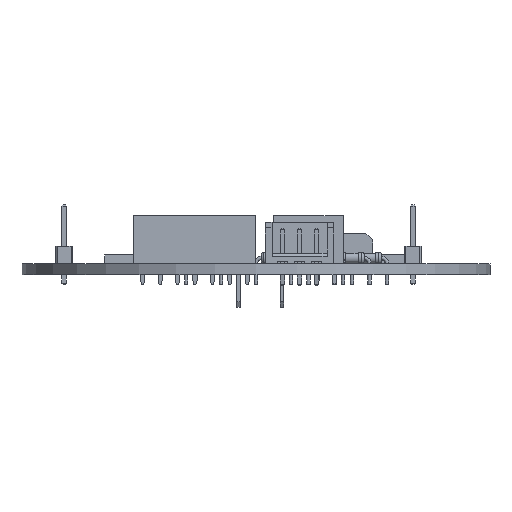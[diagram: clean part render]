
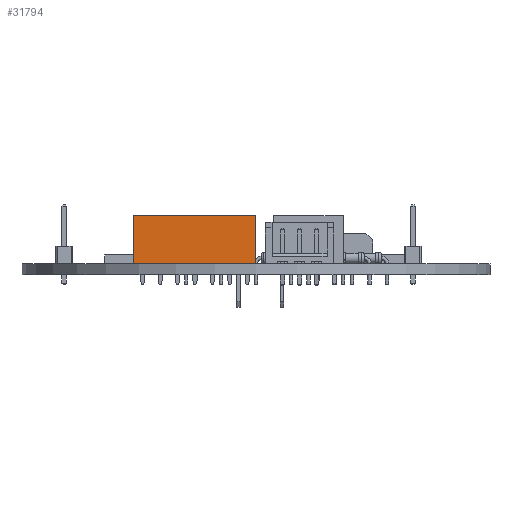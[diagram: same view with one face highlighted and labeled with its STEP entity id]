
A CAD part, left-side view. The second image highlights one B-rep face of the part: STEP entity #31794.
In plain terms, the highlighted planar face has unit normal (-1, 0, 0) as drawn and (1, 0, 0) by its records, which use the part's own axes.
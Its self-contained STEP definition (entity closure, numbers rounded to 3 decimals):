
#31794 = ADVANCED_FACE('',(#31795),#31809,.F.);
#31795 = FACE_BOUND('',#31796,.F.);
#31796 = EDGE_LOOP('',(#31797,#31832,#31860,#31888));
#31797 = ORIENTED_EDGE('',*,*,#31798,.T.);
#31798 = EDGE_CURVE('',#31799,#31801,#31803,.T.);
#31799 = VERTEX_POINT('',#31800);
#31800 = CARTESIAN_POINT('',(1.27,-16.51,0.));
#31801 = VERTEX_POINT('',#31802);
#31802 = CARTESIAN_POINT('',(1.27,-16.51,7.));
#31803 = SURFACE_CURVE('',#31804,(#31808,#31820),.PCURVE_S1.);
#31804 = LINE('',#31805,#31806);
#31805 = CARTESIAN_POINT('',(1.27,-16.51,0.));
#31806 = VECTOR('',#31807,1.);
#31807 = DIRECTION('',(0.,0.,1.));
#31808 = PCURVE('',#31809,#31814);
#31809 = PLANE('',#31810);
#31810 = AXIS2_PLACEMENT_3D('',#31811,#31812,#31813);
#31811 = CARTESIAN_POINT('',(1.27,-16.51,0.));
#31812 = DIRECTION('',(-1.,0.,0.));
#31813 = DIRECTION('',(0.,1.,0.));
#31814 = DEFINITIONAL_REPRESENTATION('',(#31815),#31819);
#31815 = LINE('',#31816,#31817);
#31816 = CARTESIAN_POINT('',(0.,0.));
#31817 = VECTOR('',#31818,1.);
#31818 = DIRECTION('',(0.,-1.));
#31819 = ( GEOMETRIC_REPRESENTATION_CONTEXT(2) 
PARAMETRIC_REPRESENTATION_CONTEXT() REPRESENTATION_CONTEXT('2D SPACE',''
  ) );
#31820 = PCURVE('',#31821,#31826);
#31821 = PLANE('',#31822);
#31822 = AXIS2_PLACEMENT_3D('',#31823,#31824,#31825);
#31823 = CARTESIAN_POINT('',(-3.81,-16.51,0.));
#31824 = DIRECTION('',(0.,1.,0.));
#31825 = DIRECTION('',(1.,0.,0.));
#31826 = DEFINITIONAL_REPRESENTATION('',(#31827),#31831);
#31827 = LINE('',#31828,#31829);
#31828 = CARTESIAN_POINT('',(5.08,0.));
#31829 = VECTOR('',#31830,1.);
#31830 = DIRECTION('',(0.,-1.));
#31831 = ( GEOMETRIC_REPRESENTATION_CONTEXT(2) 
PARAMETRIC_REPRESENTATION_CONTEXT() REPRESENTATION_CONTEXT('2D SPACE',''
  ) );
#31832 = ORIENTED_EDGE('',*,*,#31833,.T.);
#31833 = EDGE_CURVE('',#31801,#31834,#31836,.T.);
#31834 = VERTEX_POINT('',#31835);
#31835 = CARTESIAN_POINT('',(1.27,1.27,7.));
#31836 = SURFACE_CURVE('',#31837,(#31841,#31848),.PCURVE_S1.);
#31837 = LINE('',#31838,#31839);
#31838 = CARTESIAN_POINT('',(1.27,-16.51,7.));
#31839 = VECTOR('',#31840,1.);
#31840 = DIRECTION('',(0.,1.,0.));
#31841 = PCURVE('',#31809,#31842);
#31842 = DEFINITIONAL_REPRESENTATION('',(#31843),#31847);
#31843 = LINE('',#31844,#31845);
#31844 = CARTESIAN_POINT('',(0.,-7.));
#31845 = VECTOR('',#31846,1.);
#31846 = DIRECTION('',(1.,0.));
#31847 = ( GEOMETRIC_REPRESENTATION_CONTEXT(2) 
PARAMETRIC_REPRESENTATION_CONTEXT() REPRESENTATION_CONTEXT('2D SPACE',''
  ) );
#31848 = PCURVE('',#31849,#31854);
#31849 = PLANE('',#31850);
#31850 = AXIS2_PLACEMENT_3D('',#31851,#31852,#31853);
#31851 = CARTESIAN_POINT('',(1.27,-16.51,7.));
#31852 = DIRECTION('',(-0.,0.,-1.));
#31853 = DIRECTION('',(0.,-1.,-0.));
#31854 = DEFINITIONAL_REPRESENTATION('',(#31855),#31859);
#31855 = LINE('',#31856,#31857);
#31856 = CARTESIAN_POINT('',(0.,0.));
#31857 = VECTOR('',#31858,1.);
#31858 = DIRECTION('',(-1.,0.));
#31859 = ( GEOMETRIC_REPRESENTATION_CONTEXT(2) 
PARAMETRIC_REPRESENTATION_CONTEXT() REPRESENTATION_CONTEXT('2D SPACE',''
  ) );
#31860 = ORIENTED_EDGE('',*,*,#31861,.F.);
#31861 = EDGE_CURVE('',#31862,#31834,#31864,.T.);
#31862 = VERTEX_POINT('',#31863);
#31863 = CARTESIAN_POINT('',(1.27,1.27,0.));
#31864 = SURFACE_CURVE('',#31865,(#31869,#31876),.PCURVE_S1.);
#31865 = LINE('',#31866,#31867);
#31866 = CARTESIAN_POINT('',(1.27,1.27,0.));
#31867 = VECTOR('',#31868,1.);
#31868 = DIRECTION('',(0.,0.,1.));
#31869 = PCURVE('',#31809,#31870);
#31870 = DEFINITIONAL_REPRESENTATION('',(#31871),#31875);
#31871 = LINE('',#31872,#31873);
#31872 = CARTESIAN_POINT('',(17.78,0.));
#31873 = VECTOR('',#31874,1.);
#31874 = DIRECTION('',(0.,-1.));
#31875 = ( GEOMETRIC_REPRESENTATION_CONTEXT(2) 
PARAMETRIC_REPRESENTATION_CONTEXT() REPRESENTATION_CONTEXT('2D SPACE',''
  ) );
#31876 = PCURVE('',#31877,#31882);
#31877 = PLANE('',#31878);
#31878 = AXIS2_PLACEMENT_3D('',#31879,#31880,#31881);
#31879 = CARTESIAN_POINT('',(1.27,1.27,0.));
#31880 = DIRECTION('',(0.,-1.,0.));
#31881 = DIRECTION('',(-1.,0.,0.));
#31882 = DEFINITIONAL_REPRESENTATION('',(#31883),#31887);
#31883 = LINE('',#31884,#31885);
#31884 = CARTESIAN_POINT('',(0.,0.));
#31885 = VECTOR('',#31886,1.);
#31886 = DIRECTION('',(0.,-1.));
#31887 = ( GEOMETRIC_REPRESENTATION_CONTEXT(2) 
PARAMETRIC_REPRESENTATION_CONTEXT() REPRESENTATION_CONTEXT('2D SPACE',''
  ) );
#31888 = ORIENTED_EDGE('',*,*,#31889,.F.);
#31889 = EDGE_CURVE('',#31799,#31862,#31890,.T.);
#31890 = SURFACE_CURVE('',#31891,(#31895,#31902),.PCURVE_S1.);
#31891 = LINE('',#31892,#31893);
#31892 = CARTESIAN_POINT('',(1.27,-16.51,0.));
#31893 = VECTOR('',#31894,1.);
#31894 = DIRECTION('',(0.,1.,0.));
#31895 = PCURVE('',#31809,#31896);
#31896 = DEFINITIONAL_REPRESENTATION('',(#31897),#31901);
#31897 = LINE('',#31898,#31899);
#31898 = CARTESIAN_POINT('',(0.,0.));
#31899 = VECTOR('',#31900,1.);
#31900 = DIRECTION('',(1.,0.));
#31901 = ( GEOMETRIC_REPRESENTATION_CONTEXT(2) 
PARAMETRIC_REPRESENTATION_CONTEXT() REPRESENTATION_CONTEXT('2D SPACE',''
  ) );
#31902 = PCURVE('',#31903,#31908);
#31903 = PLANE('',#31904);
#31904 = AXIS2_PLACEMENT_3D('',#31905,#31906,#31907);
#31905 = CARTESIAN_POINT('',(1.27,-16.51,0.));
#31906 = DIRECTION('',(-0.,0.,-1.));
#31907 = DIRECTION('',(0.,-1.,-0.));
#31908 = DEFINITIONAL_REPRESENTATION('',(#31909),#31913);
#31909 = LINE('',#31910,#31911);
#31910 = CARTESIAN_POINT('',(0.,0.));
#31911 = VECTOR('',#31912,1.);
#31912 = DIRECTION('',(-1.,0.));
#31913 = ( GEOMETRIC_REPRESENTATION_CONTEXT(2) 
PARAMETRIC_REPRESENTATION_CONTEXT() REPRESENTATION_CONTEXT('2D SPACE',''
  ) );
